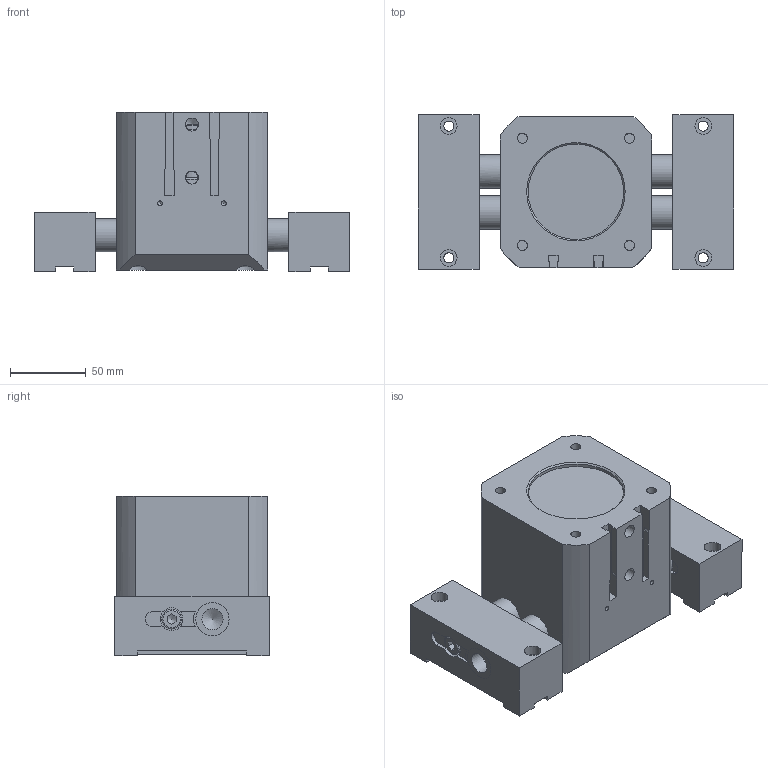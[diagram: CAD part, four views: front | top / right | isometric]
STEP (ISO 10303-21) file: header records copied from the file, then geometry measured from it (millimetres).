
FILE_DESCRIPTION((''),'2;1');
FILE_NAME('T:\CAD\Standard\Daten\3D-Datenbank\GP\4 - 3D-CAD-Daten GP 050-125\GP125\step-Daten\G-GP125-l2-GÖ+UB open.stp','2013-11-07T13:47:54',('Dirk'),(''),'Autodesk Inventor 2011','Autodesk Inventor 2011','');
FILE_SCHEMA(('AUTOMOTIVE_DESIGN { 1 0 10303 214 1 1 1 1 }'));
Length unit declared in the file: millimetre
Products named in the file (1): Bauteil80
Bounding box: 208 x 102 x 105 mm (x, y, z)
Volume: 1133871.4 mm3; surface area: 192274 mm2
Topology: 1 solids, 18 shells, 418 faces, 1052 edges, 676 vertices
Faces by surface type: plane 235, cylinder 119, cone 36, torus 24, bspline 4
Full cylindrical faces by diameter (mm): 3.242 x2, 6.647 x10, 8 x6, 8.566 x2, 9 x6, 10.106 x1, 11 x4, 12 x1, 13 x7, 14 x2, 15 x8, 22 x6, 24 x1, 25 x7, 28 x1, 31.4 x2, 37 x2, 52 x2, 60 x1, 63 x1, 70.2 x1, 77.1 x2, 80 x5
Entity records: 13127 total; most frequent: CARTESIAN_POINT 3526, DIRECTION 1901, ORIENTED_EDGE 1686, EDGE_CURVE 843, AXIS2_PLACEMENT_3D 738, EDGE_LOOP 630, VERTEX_POINT 604, VECTOR 425
